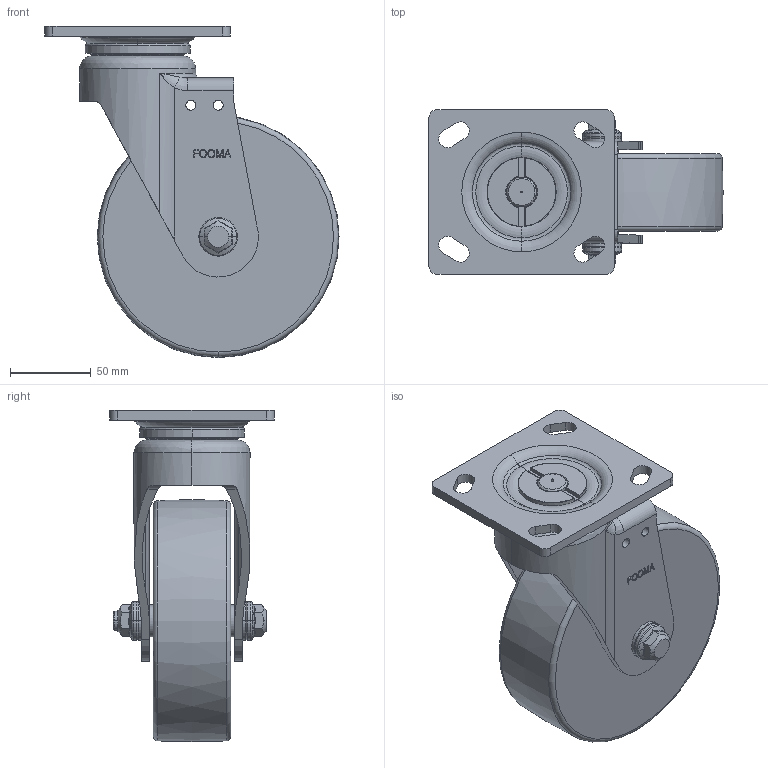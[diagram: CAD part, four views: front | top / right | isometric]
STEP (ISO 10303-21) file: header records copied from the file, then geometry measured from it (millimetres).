
FILE_DESCRIPTION((''),'2;1');
FILE_NAME('GH-150-ASF-MCD.stp','2013-04-30T16:31:26',(''),(''),'Mechanical Desktop 2009','Mechanical Desktop 2009',', , ');
FILE_SCHEMA(('CONFIG_CONTROL_DESIGN'));
Length unit declared in the file: millimetre
Products named in the file (2): GH-150-ASF-MCD; PLATE
Assembly tree (1 placements, depth 2):
  GH-150-ASF-MCD
    PLATE
Bounding box: 182.5 x 102 x 205.45 mm (x, y, z)
Volume: 1084602.7 mm3; surface area: 152554.4 mm2
Topology: 6 solids, 6 shells, 527 faces, 1360 edges, 880 vertices
Faces by surface type: bspline 217, plane 143, cylinder 94, torus 47, cone 26
Entity records: 20155 total; most frequent: CARTESIAN_POINT 8309, ORIENTED_EDGE 2712, DIRECTION 1992, EDGE_CURVE 1356, VERTEX_POINT 880, AXIS2_PLACEMENT_3D 740, EDGE_LOOP 592, FACE_OUTER_BOUND 527
